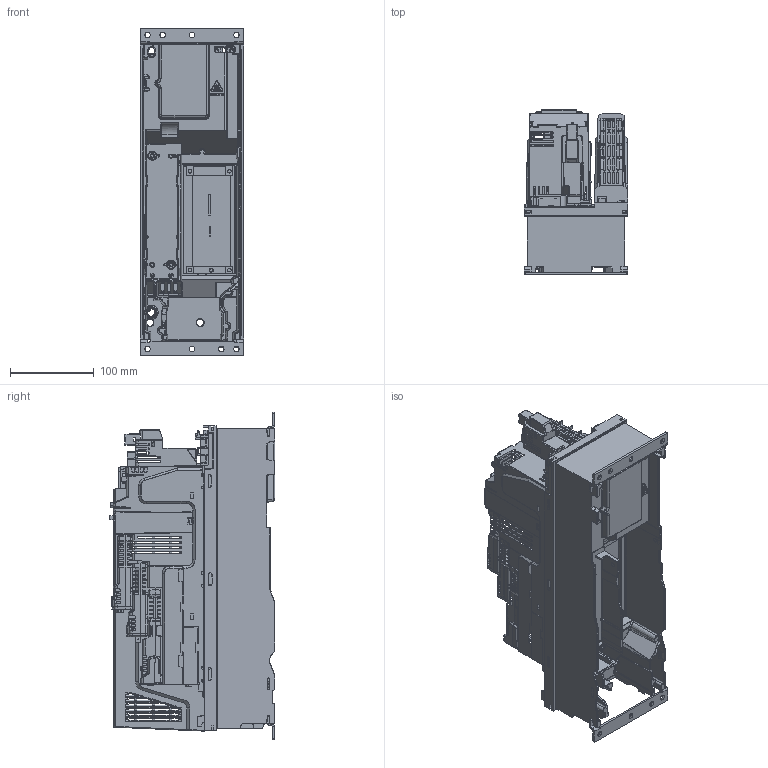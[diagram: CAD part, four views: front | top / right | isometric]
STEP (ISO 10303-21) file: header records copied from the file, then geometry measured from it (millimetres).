
FILE_DESCRIPTION((''),'2;1');
FILE_NAME('INTERNAL_GT8-F05','2013-09-02T',('lewisi02'),(''),'PRO/ENGINEER BY PARAMETRIC TECHNOLOGY CORPORATION, 2011490','PRO/ENGINEER BY PARAMETRIC TECHNOLOGY CORPORATION, 2011490','');
FILE_SCHEMA(('CONFIG_CONTROL_DESIGN'));
Products named in the file (1): INTERNAL_GT8-F05
Bounding box: 123.77 x 197.22 x 391 mm (x, y, z)
Surface area: 588560 mm2 (no closed solid volume)
Topology: 0 solids, 635 shells, 2557 faces, 22223 edges, 19936 vertices
Faces by surface type: plane 1438, cylinder 638, bspline 225, cone 132, torus 69, extrusion 48, sphere 7
Entity records: 227525 total; most frequent: CARTESIAN_POINT 82568, ORIENTED_EDGE 25392, DIRECTION 24083, EDGE_CURVE 22222, VERTEX_POINT 19936, VECTOR 14893, LINE 14845, B_SPLINE_CURVE_WITH_KNOTS 5114
